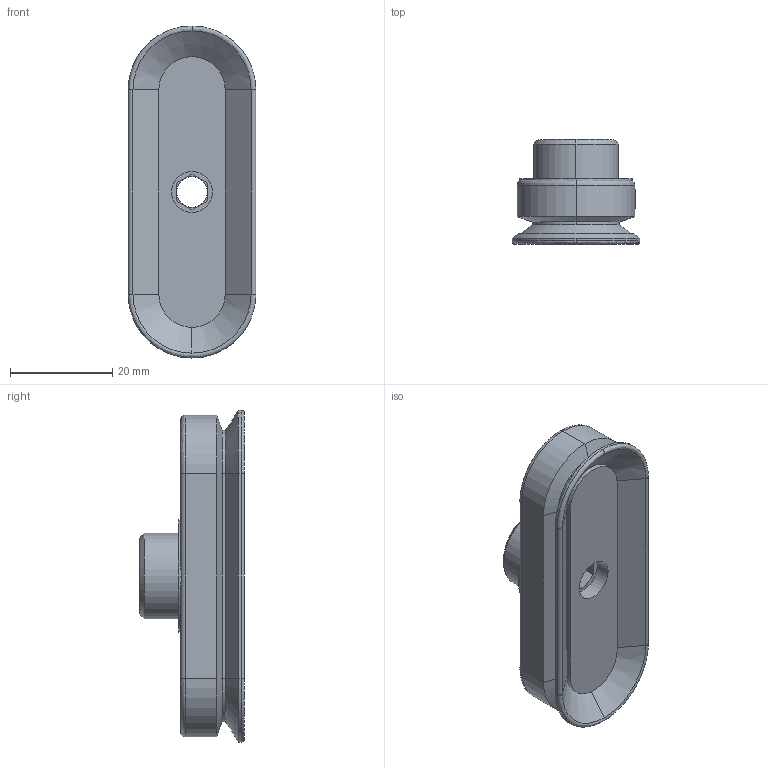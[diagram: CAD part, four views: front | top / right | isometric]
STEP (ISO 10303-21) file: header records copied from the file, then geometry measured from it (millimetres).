
FILE_DESCRIPTION (( 'STEP AP214' ), '1' );
FILE_NAME ('VOFC 2565.STEP', '2019-11-26T01:12:17', ( '微软用户' ), ( '微软中国' ), 'SwSTEP 2.0', 'SolidWorks 2016', '' );
FILE_SCHEMA (( 'AUTOMOTIVE_DESIGN' ));
Length unit declared in the file: millimetre
Products named in the file (1): VOFC 2565
Bounding box: 25 x 20.5 x 65 mm (x, y, z)
Volume: 13781.6 mm3; surface area: 6294.3 mm2
Topology: 1 solids, 1 shells, 133 faces, 311 edges, 190 vertices
Faces by surface type: plane 70, cylinder 25, bspline 23, cone 15
Entity records: 7187 total; most frequent: CARTESIAN_POINT 2761, ORIENTED_EDGE 622, DIRECTION 563, EDGE_CURVE 311, LINE 199, VECTOR 199, VERTEX_POINT 190, AXIS2_PLACEMENT_3D 182
